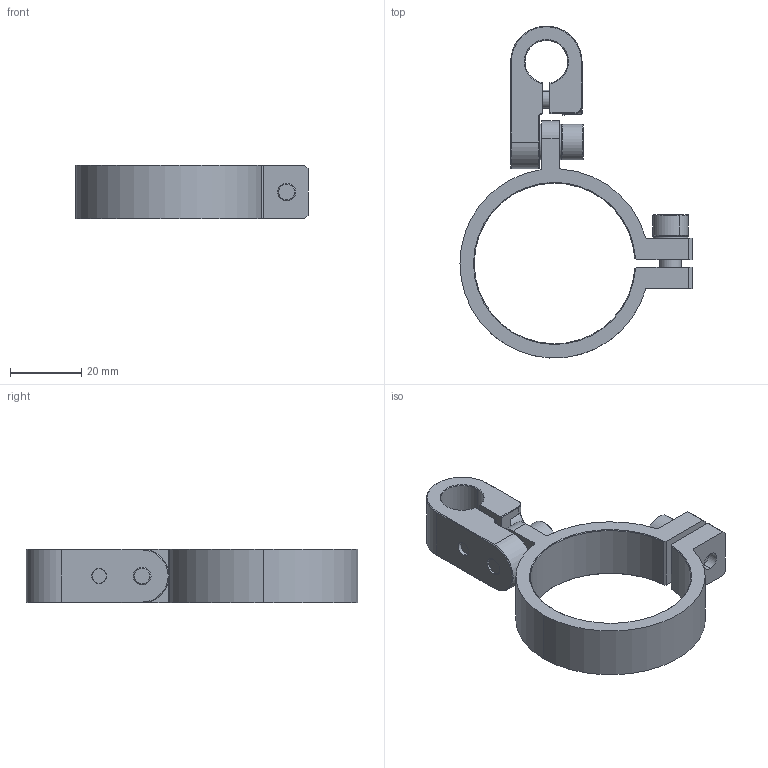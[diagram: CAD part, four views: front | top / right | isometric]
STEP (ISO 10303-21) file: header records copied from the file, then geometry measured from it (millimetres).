
FILE_DESCRIPTION (( 'STEP AP214' ), '1' );
FILE_NAME ('SCE-NR20-D12.STEP', '2021-03-19T01:50:45', ( '微软用户' ), ( '微软中国' ), 'SwSTEP 2.0', 'SolidWorks 2018', '' );
FILE_SCHEMA (( 'AUTOMOTIVE_DESIGN' ));
Length unit declared in the file: millimetre
Products named in the file (8): SCE-NR20-D12; 2.Y02758; PTS-M6; PTS-M5; PTC-M6L14; PTC-M6L12; PTC-M5L14; 2.Y05465
Assembly tree (9 placements, depth 2):
  SCE-NR20-D12
    2.Y05465
    PTC-M5L14
    PTC-M6L12
    PTC-M6L14
    PTS-M5
    PTS-M6  x3
    2.Y02758
Bounding box: 65 x 92.96 x 15 mm (x, y, z)
Volume: 19532.7 mm3; surface area: 13252.8 mm2
Topology: 9 solids, 9 shells, 947 faces, 2706 edges, 1775 vertices
Faces by surface type: plane 852, cylinder 60, cone 29, torus 6
Entity records: 18343 total; most frequent: DIRECTION 3185, CARTESIAN_POINT 3144, ORIENTED_EDGE 3092, EDGE_CURVE 1546, AXIS2_PLACEMENT_3D 1080, LINE 1025, VECTOR 1025, VERTEX_POINT 1007
